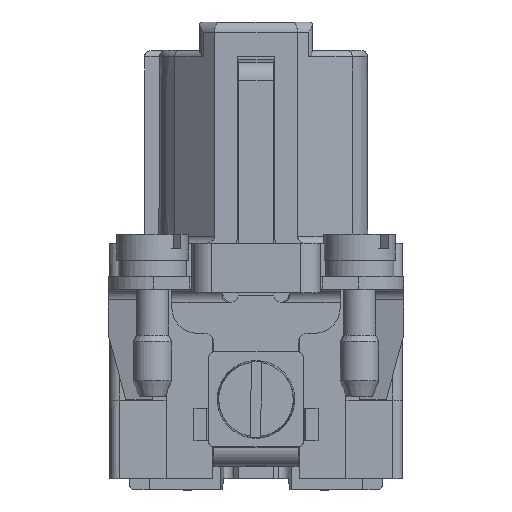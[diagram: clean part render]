
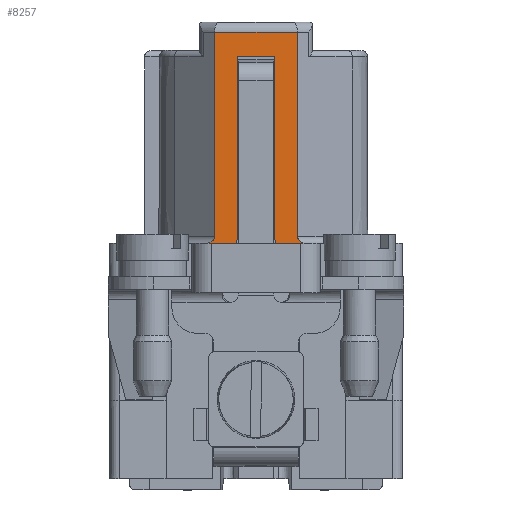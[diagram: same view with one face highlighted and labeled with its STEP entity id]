
A CAD part, left-side view. The second image highlights one B-rep face of the part: STEP entity #8257.
In plain terms, the highlighted planar face has unit normal (-1, 0, 0.004).
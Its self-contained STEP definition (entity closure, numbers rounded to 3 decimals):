
#7185=FACE_OUTER_BOUND('',#11079,.T.);
#8257=ADVANCED_FACE('',(#7185),#8975,.T.);
#8975=PLANE('',#28694);
#9326=ELLIPSE('',#28438,0.707,0.5);
#9327=ELLIPSE('',#28441,0.707,0.5);
#11079=EDGE_LOOP('',(#15049,#15050,#15051,#15052,#15053,#15054,#15055,#15056,
#15057,#15058));
#15049=ORIENTED_EDGE('',*,*,#20538,.F.);
#15050=ORIENTED_EDGE('',*,*,#19810,.T.);
#15051=ORIENTED_EDGE('',*,*,#20537,.T.);
#15052=ORIENTED_EDGE('',*,*,#19999,.T.);
#15053=ORIENTED_EDGE('',*,*,#20607,.F.);
#15054=ORIENTED_EDGE('',*,*,#20321,.F.);
#15055=ORIENTED_EDGE('',*,*,#20306,.F.);
#15056=ORIENTED_EDGE('',*,*,#20315,.F.);
#15057=ORIENTED_EDGE('',*,*,#20608,.F.);
#15058=ORIENTED_EDGE('',*,*,#20004,.T.);
#17723=VERTEX_POINT('',#38745);
#17725=VERTEX_POINT('',#38750);
#17866=VERTEX_POINT('',#39260);
#17867=VERTEX_POINT('',#39261);
#17870=VERTEX_POINT('',#39269);
#17871=VERTEX_POINT('',#39271);
#18086=VERTEX_POINT('',#39982);
#18087=VERTEX_POINT('',#39984);
#18093=VERTEX_POINT('',#40003);
#18098=VERTEX_POINT('',#40015);
#19810=EDGE_CURVE('',#17723,#17725,#23095,.T.);
#19999=EDGE_CURVE('',#17866,#17867,#9326,.T.);
#20004=EDGE_CURVE('',#17871,#17870,#9327,.T.);
#20306=EDGE_CURVE('',#18086,#18087,#23450,.T.);
#20315=EDGE_CURVE('',#18093,#18086,#23459,.T.);
#20321=EDGE_CURVE('',#18087,#18098,#23465,.T.);
#20537=EDGE_CURVE('',#17725,#17866,#23649,.T.);
#20538=EDGE_CURVE('',#17723,#17870,#23650,.T.);
#20607=EDGE_CURVE('',#18098,#17867,#23713,.T.);
#20608=EDGE_CURVE('',#17871,#18093,#23714,.T.);
#23095=LINE('',#38751,#24879);
#23450=LINE('',#39983,#25234);
#23459=LINE('',#40002,#25243);
#23465=LINE('',#40014,#25249);
#23649=LINE('',#40548,#25433);
#23650=LINE('',#40550,#25434);
#23713=LINE('',#40679,#25497);
#23714=LINE('',#40680,#25498);
#24879=VECTOR('',#31884,1.);
#25234=VECTOR('',#32789,1.);
#25243=VECTOR('',#32806,1.);
#25249=VECTOR('',#32814,1.);
#25433=VECTOR('',#33166,1.);
#25434=VECTOR('',#33169,1.);
#25497=VECTOR('',#33322,1.);
#25498=VECTOR('',#33323,1.);
#28438=AXIS2_PLACEMENT_3D('',#39259,#32285,#32286);
#28441=AXIS2_PLACEMENT_3D('',#39270,#32294,#32295);
#28694=AXIS2_PLACEMENT_3D('',#40681,#33324,#33325);
#31884=DIRECTION('',(0.,1.,0.));
#32285=DIRECTION('',(1.,0.,-0.003));
#32286=DIRECTION('',(0.,1.,0.003));
#32294=DIRECTION('',(1.,0.,-0.003));
#32295=DIRECTION('',(0.,1.,-0.003));
#32789=DIRECTION('',(0.,1.,0.));
#32806=DIRECTION('',(0.003,0.003,1.));
#32814=DIRECTION('',(-0.003,0.003,-1.));
#33166=DIRECTION('',(-0.003,0.001,-1.));
#33169=DIRECTION('',(-0.003,-0.001,-1.));
#33322=DIRECTION('',(0.,1.,0.));
#33323=DIRECTION('',(0.,1.,0.));
#33324=DIRECTION('',(-1.,0.,0.003));
#33325=DIRECTION('',(0.003,0.,1.));
#38745=CARTESIAN_POINT('',(-27.545,-3.198,19.853));
#38750=CARTESIAN_POINT('',(-27.545,3.198,19.853));
#38751=CARTESIAN_POINT('',(-27.545,3.197,19.853));
#39259=CARTESIAN_POINT('',(-27.6,3.928,4.05));
#39260=CARTESIAN_POINT('',(-27.6,3.221,4.048));
#39261=CARTESIAN_POINT('',(-27.602,3.926,3.55));
#39269=CARTESIAN_POINT('',(-27.6,-3.221,4.048));
#39270=CARTESIAN_POINT('',(-27.6,-3.928,4.05));
#39271=CARTESIAN_POINT('',(-27.602,-3.926,3.55));
#39982=CARTESIAN_POINT('',(-27.552,-1.431,17.95));
#39983=CARTESIAN_POINT('',(-27.552,0.,17.95));
#39984=CARTESIAN_POINT('',(-27.552,1.431,17.95));
#40002=CARTESIAN_POINT('',(-27.55,-1.429,18.454));
#40003=CARTESIAN_POINT('',(-27.602,-1.468,3.55));
#40014=CARTESIAN_POINT('',(-27.55,1.429,18.454));
#40015=CARTESIAN_POINT('',(-27.602,1.468,3.55));
#40548=CARTESIAN_POINT('',(-27.55,3.2,18.455));
#40550=CARTESIAN_POINT('',(-27.55,-3.2,18.475));
#40679=CARTESIAN_POINT('',(-27.602,-10.55,3.55));
#40680=CARTESIAN_POINT('',(-27.602,-10.55,3.55));
#40681=CARTESIAN_POINT('',(-27.55,0.,18.45));
